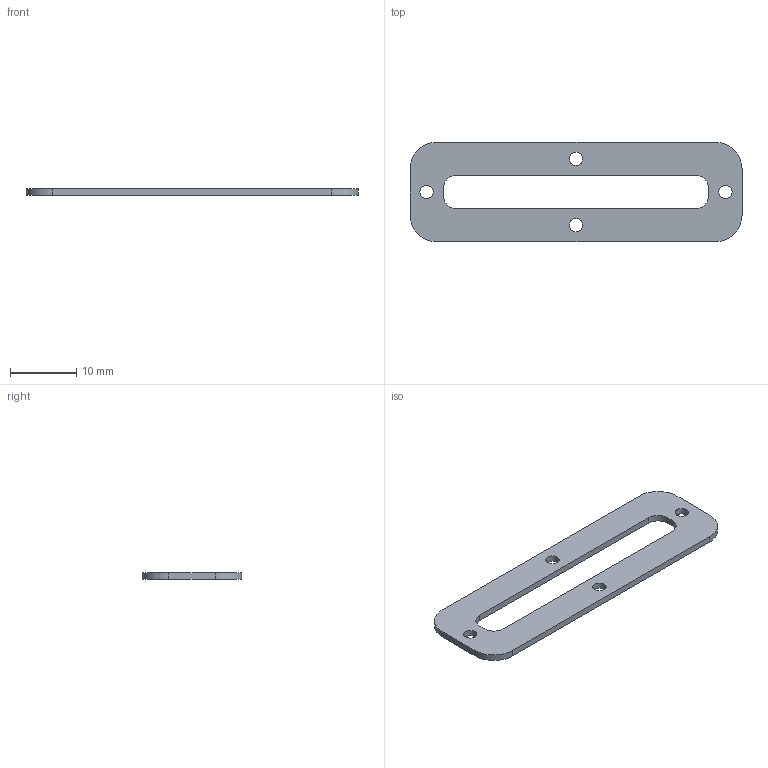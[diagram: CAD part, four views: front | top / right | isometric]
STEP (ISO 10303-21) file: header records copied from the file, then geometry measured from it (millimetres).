
FILE_DESCRIPTION(/* description */ (''),/* implementation_level */ '2;1');
FILE_NAME(/* name */ 'G:\YandexDisk\Работа\Inventor\Универ\ОАП\Лабораторные работы\ЛР6 Создание сборок\Редуктор\stp\Прокладка 9.stp',/* time_stamp */ '2023-11-17T06:37:09+03:00',/* author */ ('34740'),/* organization */ (''),/* preprocessor_version */ 'ST-DEVELOPER v18.1',/* originating_system */ 'Autodesk Inventor 2022',/* authorisation */ '');
FILE_SCHEMA (('AUTOMOTIVE_DESIGN { 1 0 10303 214 3 1 1 }'));
Length unit declared in the file: millimetre
Products named in the file (1): Прокладка 9
Bounding box: 50 x 15 x 1 mm (x, y, z)
Volume: 527.1 mm3; surface area: 1289.1 mm2
Topology: 1 solids, 1 shells, 22 faces, 60 edges, 40 vertices
Faces by surface type: cylinder 12, plane 10
Full cylindrical faces by diameter (mm): 2 x4
Entity records: 769 total; most frequent: DIRECTION 130, CARTESIAN_POINT 123, ORIENTED_EDGE 120, EDGE_CURVE 60, AXIS2_PLACEMENT_3D 47, VERTEX_POINT 40, LINE 36, VECTOR 36
